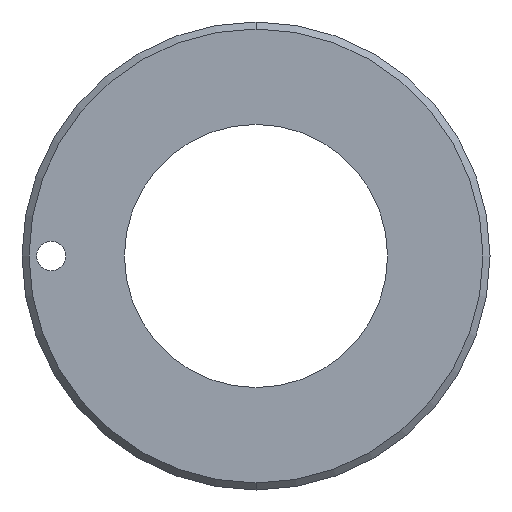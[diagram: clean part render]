
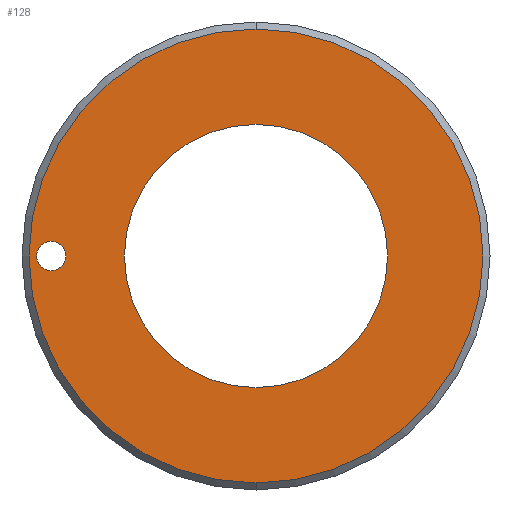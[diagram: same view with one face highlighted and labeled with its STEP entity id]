
A CAD part, front view. The second image highlights one B-rep face of the part: STEP entity #128.
In plain terms, the highlighted planar face has unit normal (0, -1, 0).
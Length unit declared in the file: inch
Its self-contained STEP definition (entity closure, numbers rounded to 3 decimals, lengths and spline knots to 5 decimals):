
#1 = ORIENTED_EDGE ( 'NONE', *, *, #52, .T. ) ;
#2 = EDGE_LOOP ( 'NONE', ( #26, #7 ) ) ;
#5 = EDGE_CURVE ( 'NONE', #63, #61, #164, .T. ) ;
#6 = ORIENTED_EDGE ( 'NONE', *, *, #9, .T. ) ;
#7 = ORIENTED_EDGE ( 'NONE', *, *, #115, .T. ) ;
#8 = ORIENTED_EDGE ( 'NONE', *, *, #5, .T. ) ;
#9 = EDGE_CURVE ( 'NONE', #44, #50, #160, .T. ) ;
#26 = ORIENTED_EDGE ( 'NONE', *, *, #27, .T. ) ;
#27 = EDGE_CURVE ( 'NONE', #117, #116, #192, .T. ) ;
#44 = VERTEX_POINT ( 'NONE', #168 ) ;
#50 = VERTEX_POINT ( 'NONE', #259 ) ;
#52 = EDGE_CURVE ( 'NONE', #50, #44, #258, .T. ) ;
#56 = EDGE_CURVE ( 'NONE', #61, #63, #246, .T. ) ;
#61 = VERTEX_POINT ( 'NONE', #233 ) ;
#63 = VERTEX_POINT ( 'NONE', #232 ) ;
#115 = EDGE_CURVE ( 'NONE', #116, #117, #275, .T. ) ;
#116 = VERTEX_POINT ( 'NONE', #227 ) ;
#117 = VERTEX_POINT ( 'NONE', #226 ) ;
#128 = ADVANCED_FACE ( 'NONE', ( #421, #414, #413 ), #392, .F. ) ;
#129 = ORIENTED_EDGE ( 'NONE', *, *, #56, .T. ) ;
#130 = EDGE_LOOP ( 'NONE', ( #6, #1 ) ) ;
#131 = EDGE_LOOP ( 'NONE', ( #8, #129 ) ) ;
#156 = DIRECTION ( 'NONE',  ( 0., 0., 1. ) ) ;
#157 = DIRECTION ( 'NONE',  ( 0., 1., 0. ) ) ;
#158 = CARTESIAN_POINT ( 'NONE',  ( 0., 0., 0. ) ) ;
#159 = AXIS2_PLACEMENT_3D ( 'NONE', #158, #157, #156 ) ;
#160 = CIRCLE ( 'NONE', #159, 0.5625 ) ;
#161 = DIRECTION ( 'NONE',  ( 0., 0., 1. ) ) ;
#162 = DIRECTION ( 'NONE',  ( 0., -1., 0. ) ) ;
#163 = AXIS2_PLACEMENT_3D ( 'NONE', #206, #162, #161 ) ;
#164 = CIRCLE ( 'NONE', #163, 0.97 ) ;
#168 = CARTESIAN_POINT ( 'NONE',  ( 0., 0., 0.5625 ) ) ;
#183 = DIRECTION ( 'NONE',  ( 0., 0., 1. ) ) ;
#184 = DIRECTION ( 'NONE',  ( 0., 1., 0. ) ) ;
#185 = CARTESIAN_POINT ( 'NONE',  ( -0.875, 0., 0. ) ) ;
#186 = AXIS2_PLACEMENT_3D ( 'NONE', #185, #184, #183 ) ;
#192 = CIRCLE ( 'NONE', #186, 0.0625 ) ;
#206 = CARTESIAN_POINT ( 'NONE',  ( 0., 0., 0. ) ) ;
#214 = DIRECTION ( 'NONE',  ( 0., 0., 1. ) ) ;
#215 = DIRECTION ( 'NONE',  ( 0., -1., 0. ) ) ;
#216 = CARTESIAN_POINT ( 'NONE',  ( 0., 0., 0. ) ) ;
#217 = AXIS2_PLACEMENT_3D ( 'NONE', #216, #215, #214 ) ;
#226 = CARTESIAN_POINT ( 'NONE',  ( -0.875, 0., 0.0625 ) ) ;
#227 = CARTESIAN_POINT ( 'NONE',  ( -0.875, 0., -0.0625 ) ) ;
#228 = DIRECTION ( 'NONE',  ( 0., 0., 1. ) ) ;
#232 = CARTESIAN_POINT ( 'NONE',  ( 0., 0., 0.97 ) ) ;
#233 = CARTESIAN_POINT ( 'NONE',  ( 0., 0., -0.97 ) ) ;
#246 = CIRCLE ( 'NONE', #217, 0.97 ) ;
#254 = DIRECTION ( 'NONE',  ( 0., 0., 1. ) ) ;
#255 = DIRECTION ( 'NONE',  ( 0., 1., 0. ) ) ;
#256 = CARTESIAN_POINT ( 'NONE',  ( 0., 0., 0. ) ) ;
#257 = AXIS2_PLACEMENT_3D ( 'NONE', #256, #255, #254 ) ;
#258 = CIRCLE ( 'NONE', #257, 0.5625 ) ;
#259 = CARTESIAN_POINT ( 'NONE',  ( 0., 0., -0.5625 ) ) ;
#272 = DIRECTION ( 'NONE',  ( 0., 1., 0. ) ) ;
#273 = CARTESIAN_POINT ( 'NONE',  ( -0.875, 0., 0. ) ) ;
#274 = AXIS2_PLACEMENT_3D ( 'NONE', #273, #272, #228 ) ;
#275 = CIRCLE ( 'NONE', #274, 0.0625 ) ;
#392 = PLANE ( 'NONE',  #393 ) ;
#393 = AXIS2_PLACEMENT_3D ( 'NONE', #398, #397, #396 ) ;
#396 = DIRECTION ( 'NONE',  ( 0., 0., 1. ) ) ;
#397 = DIRECTION ( 'NONE',  ( 0., 1., 0. ) ) ;
#398 = CARTESIAN_POINT ( 'NONE',  ( 0., 0., 0. ) ) ;
#413 = FACE_BOUND ( 'NONE', #130, .T. ) ;
#414 = FACE_OUTER_BOUND ( 'NONE', #131, .T. ) ;
#421 = FACE_BOUND ( 'NONE', #2, .T. ) ;
